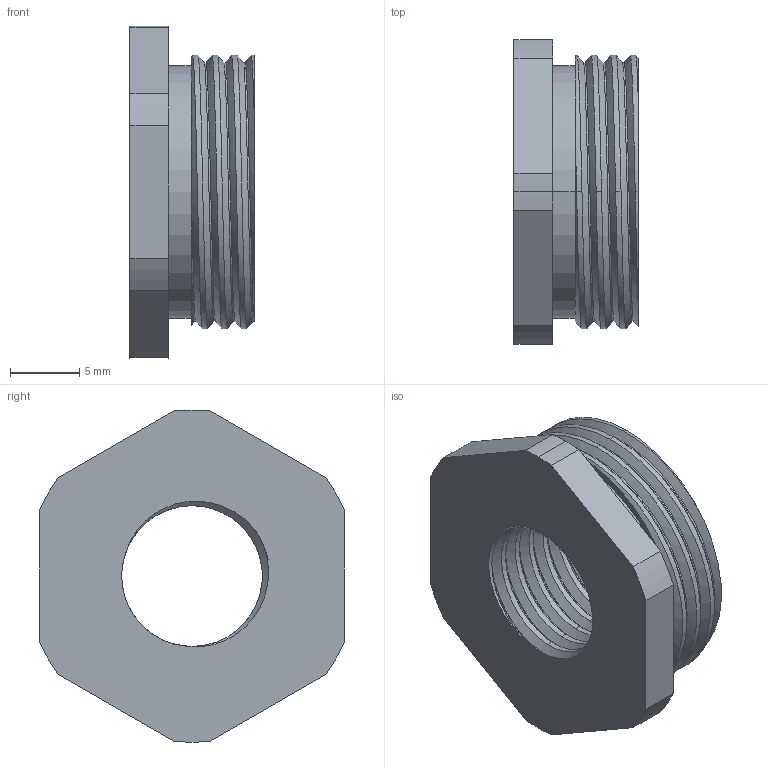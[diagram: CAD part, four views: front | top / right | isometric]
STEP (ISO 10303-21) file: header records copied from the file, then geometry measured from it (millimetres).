
FILE_DESCRIPTION (( 'STEP AP214' ), '1' );
FILE_NAME ('CEC-M12X.STEP', '2020-07-09T18:52:30', ( '' ), ( '' ), 'SwSTEP 2.0', 'SolidWorks 2018', '' );
FILE_SCHEMA (( 'AUTOMOTIVE_DESIGN' ));
Length unit declared in the file: inch
Products named in the file (2): CEC-M12X
Bounding box: 8.97 x 21.97 x 23.97 mm (x, y, z)
Volume: 2116.6 mm3; surface area: 1800.8 mm2
Topology: 1 solids, 1 shells, 50 faces, 137 edges, 94 vertices
Faces by surface type: cylinder 31, plane 11, bspline 6, torus 2
Entity records: 3529 total; most frequent: CARTESIAN_POINT 2356, ORIENTED_EDGE 270, DIRECTION 199, EDGE_CURVE 135, VERTEX_POINT 90, AXIS2_PLACEMENT_3D 76, EDGE_LOOP 55, FACE_OUTER_BOUND 50
